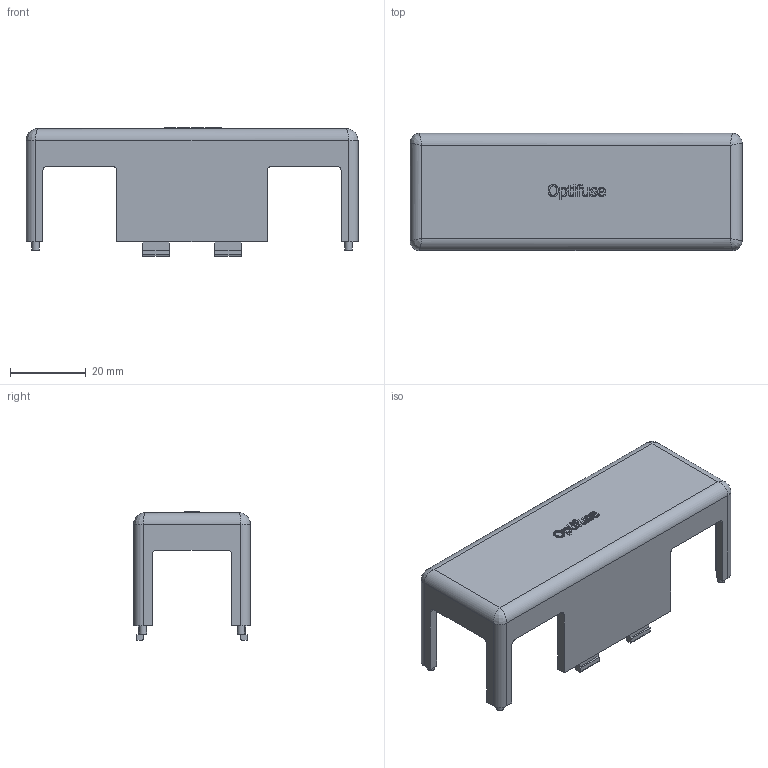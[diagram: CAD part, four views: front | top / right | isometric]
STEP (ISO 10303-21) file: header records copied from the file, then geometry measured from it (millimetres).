
FILE_DESCRIPTION(/* description */ (''),/* implementation_level */ '2;1');
FILE_NAME(/* name */ 'C:\Users\Hani\Desktop\work\BLC-08-GT\BLC-08-GTC.stp',/* time_stamp */ '2021-07-06T14:09:21-07:00',/* author */ ('Hani'),/* organization */ (''),/* preprocessor_version */ 'ST-DEVELOPER v17',/* originating_system */ 'Autodesk Inventor 2019',/* authorisation */ '');
FILE_SCHEMA (('AUTOMOTIVE_DESIGN { 1 0 10303 214 3 1 1 }'));
Length unit declared in the file: inch
Products named in the file (1): BLC-08-GTC
Bounding box: 87.88 x 30.99 x 34.06 mm (x, y, z)
Volume: 15050.2 mm3; surface area: 14185.2 mm2
Topology: 1 solids, 1 shells, 258 faces, 700 edges, 448 vertices
Faces by surface type: plane 143, bspline 75, cylinder 40
Full cylindrical faces by diameter (mm): 1.905 x4
Entity records: 8791 total; most frequent: CARTESIAN_POINT 2702, ORIENTED_EDGE 1384, DIRECTION 1014, EDGE_CURVE 692, LINE 470, VECTOR 470, VERTEX_POINT 448, AXIS2_PLACEMENT_3D 272
